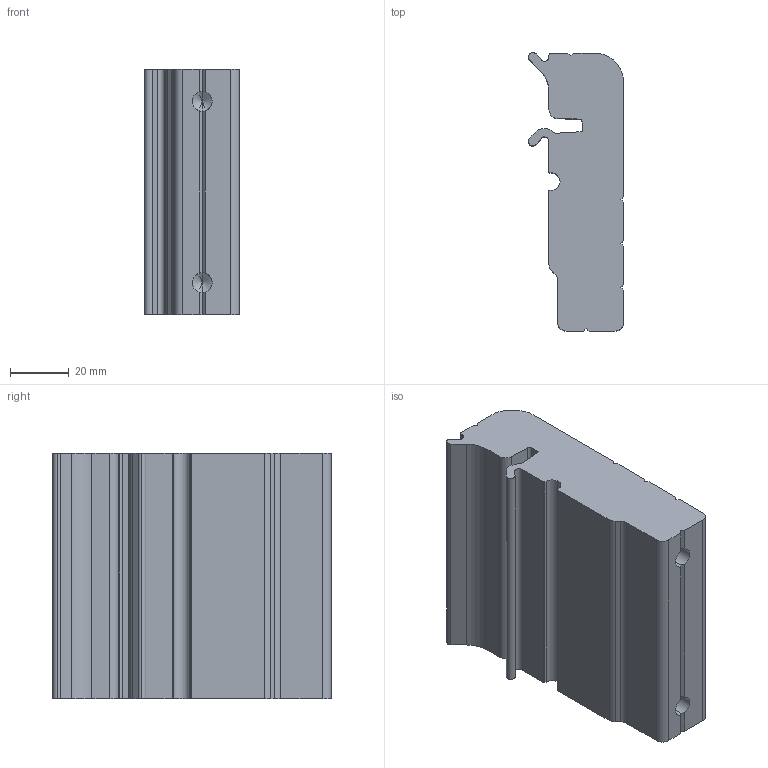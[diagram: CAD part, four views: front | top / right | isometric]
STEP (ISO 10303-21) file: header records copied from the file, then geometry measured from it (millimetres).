
FILE_DESCRIPTION (( 'STEP AP214' ), '1' );
FILE_NAME ('R2 SL32P para.step', '2017-04-05T08:05:36', ( '' ), ( '' ), 'SwSTEP 2.0', 'SolidWorks 2015', '' );
FILE_SCHEMA (( 'AUTOMOTIVE_DESIGN' ));
Length unit declared in the file: millimetre
Products named in the file (1): R2 SL32P para
Bounding box: 32.5 x 95.18 x 84 mm (x, y, z)
Volume: 191828 mm3; surface area: 30291.3 mm2
Topology: 1 solids, 1 shells, 71 faces, 209 edges, 134 vertices
Faces by surface type: plane 41, cylinder 26, cone 4
Entity records: 2440 total; most frequent: CARTESIAN_POINT 469, ORIENTED_EDGE 410, DIRECTION 383, EDGE_CURVE 205, VECTOR 139, LINE 139, VERTEX_POINT 134, AXIS2_PLACEMENT_3D 122
